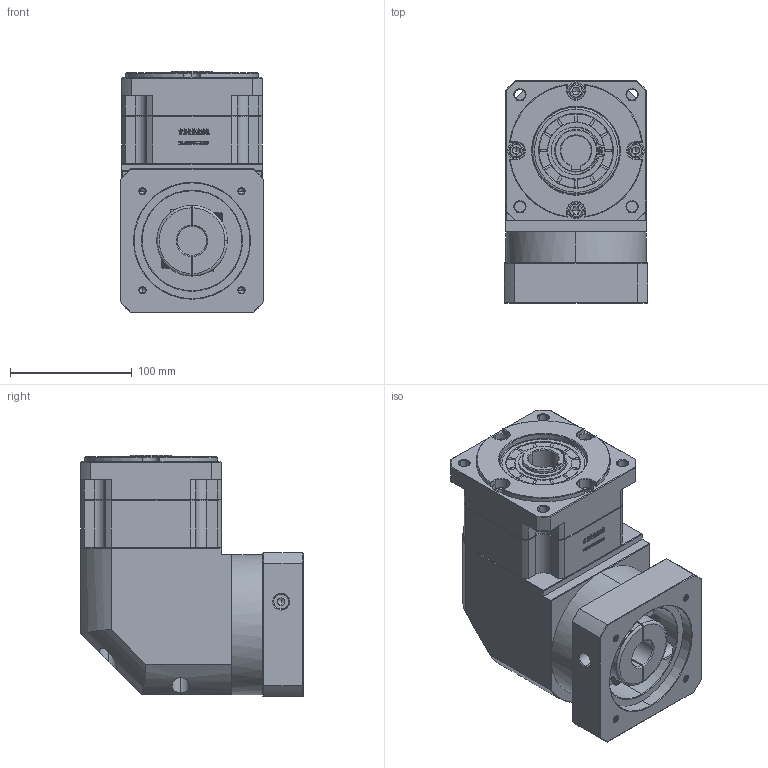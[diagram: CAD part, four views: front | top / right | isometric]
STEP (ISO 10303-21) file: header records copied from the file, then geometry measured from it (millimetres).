
FILE_DESCRIPTION (( 'STEP AP214' ), '1' );
FILE_NAME ('ZBR115A-K25-L1-24-95-115-M6.step', '2023-03-03T05:06:05', ( '' ), ( 'Microsoft' ), 'SwSTEP 2.0', 'SolidWorks 2016', '' );
FILE_SCHEMA (( 'AUTOMOTIVE_DESIGN' ));
Length unit declared in the file: millimetre
Products named in the file (1): ZBR115A-K25-L1-24-95-115-M6
Bounding box: 118 x 182.4 x 198 mm (x, y, z)
Volume: 2815236.1 mm3; surface area: 236215.4 mm2
Topology: 6 solids, 6 shells, 2913 faces, 7723 edges, 4955 vertices
Faces by surface type: plane 1551, bspline 601, cylinder 391, cone 362, torus 8
Entity records: 156608 total; most frequent: CARTESIAN_POINT 56886, ORIENTED_EDGE 15390, DIRECTION 11685, EDGE_CURVE 7695, VECTOR 5233, LINE 5233, VERTEX_POINT 4955, AXIS2_PLACEMENT_3D 3226
